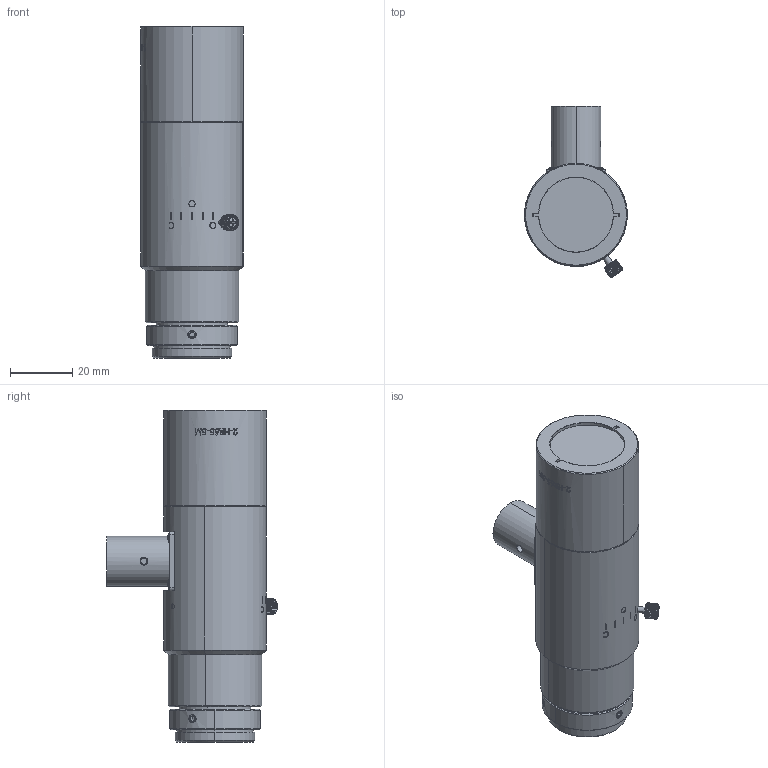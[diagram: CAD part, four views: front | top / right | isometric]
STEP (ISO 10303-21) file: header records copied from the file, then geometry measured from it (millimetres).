
FILE_DESCRIPTION (( 'STEP AP203' ), '1' );
FILE_NAME ('MML2-HR65DVI-5M_A04190A0100101A-001.STEP', '2014-07-15T01:17:22', ( '' ), ( '' ), 'SwSTEP 2.0', 'SolidWorks 2011', '' );
FILE_SCHEMA (( 'CONFIG_CONTROL_DESIGN' ));
Products named in the file (1): MML2-HR65DVI-5M_A04190A0100101A-001
Bounding box: 33 x 54.84 x 106.5 mm (x, y, z)
Volume: 85289.4 mm3; surface area: 15991 mm2
Topology: 1 solids, 10 shells, 736 faces, 1874 edges, 1195 vertices
Faces by surface type: plane 291, cylinder 162, cone 155, bspline 98, torus 20, sphere 10
Entity records: 32356 total; most frequent: CARTESIAN_POINT 15884, ORIENTED_EDGE 3716, DIRECTION 2947, EDGE_CURVE 1858, AXIS2_PLACEMENT_3D 1207, VERTEX_POINT 1195, EDGE_LOOP 805, ADVANCED_FACE 736
